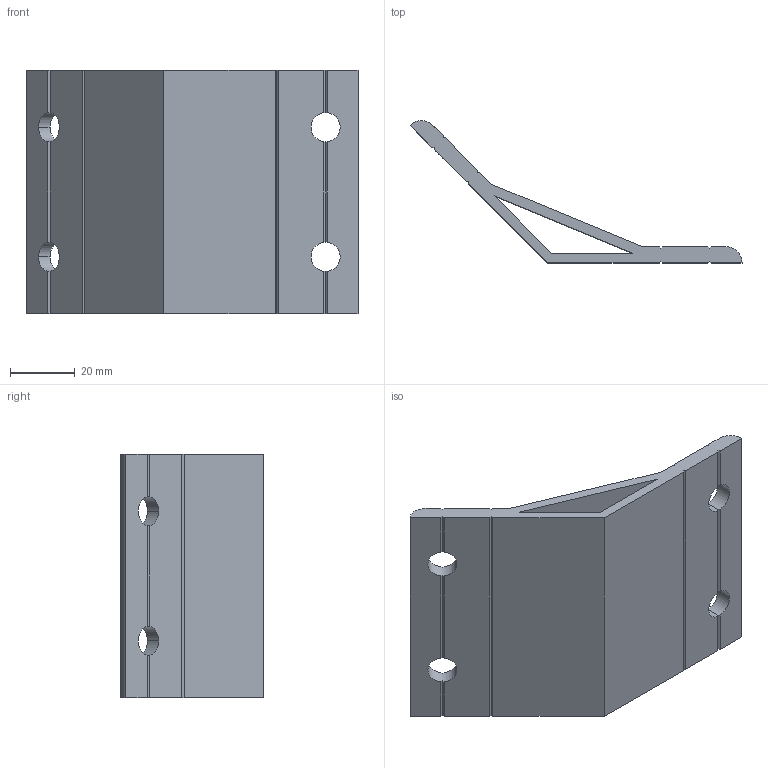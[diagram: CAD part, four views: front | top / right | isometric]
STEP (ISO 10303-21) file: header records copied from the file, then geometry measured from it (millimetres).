
FILE_DESCRIPTION (( 'STEP AP203' ), '1' );
FILE_NAME ('WA75135-8.STEP', '2024-02-19T06:19:14', ( '' ), ( '' ), 'SwSTEP 2.0', 'SolidWorks 2022', '' );
FILE_SCHEMA (( 'CONFIG_CONTROL_DESIGN' ));
Length unit declared in the file: millimetre
Products named in the file (1): WA75135-8
Bounding box: 102.43 x 43.87 x 75 mm (x, y, z)
Volume: 45034.2 mm3; surface area: 26527.3 mm2
Topology: 1 solids, 1 shells, 60 faces, 190 edges, 124 vertices
Faces by surface type: plane 50, cylinder 10
Entity records: 2175 total; most frequent: CARTESIAN_POINT 471, ORIENTED_EDGE 380, DIRECTION 308, EDGE_CURVE 190, LINE 130, VECTOR 130, VERTEX_POINT 124, AXIS2_PLACEMENT_3D 89
